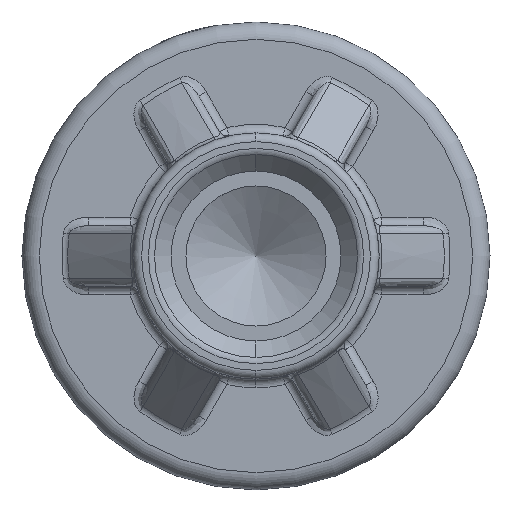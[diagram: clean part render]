
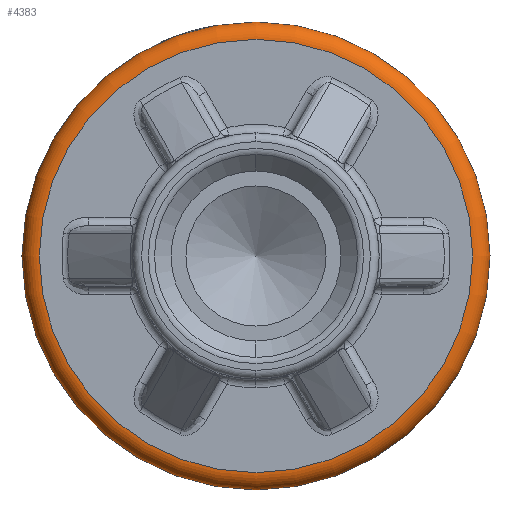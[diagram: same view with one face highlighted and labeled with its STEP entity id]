
A CAD part, left-side view. The second image highlights one B-rep face of the part: STEP entity #4383.
In plain terms, the highlighted toroidal (fillet/blend) face has major radius 6.25 mm and minor radius 0.5 mm.
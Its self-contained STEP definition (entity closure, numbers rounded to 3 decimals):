
#848=FACE_OUTER_BOUND('',#1147,.T.);
#1147=EDGE_LOOP('',(#2967,#2968,#2969,#2970,#2971,#2972,#2973));
#1491=CIRCLE('',#4754,6.75);
#1492=CIRCLE('',#4755,0.5);
#1493=CIRCLE('',#4756,6.25);
#1494=CIRCLE('',#4757,6.25);
#1495=CIRCLE('',#4758,6.75);
#1496=CIRCLE('',#4759,6.75);
#1823=VERTEX_POINT('',#6608);
#1824=VERTEX_POINT('',#6609);
#1825=VERTEX_POINT('',#6611);
#1826=VERTEX_POINT('',#6613);
#1827=VERTEX_POINT('',#6616);
#2251=EDGE_CURVE('',#1823,#1824,#1491,.T.);
#2252=EDGE_CURVE('',#1823,#1825,#1492,.T.);
#2253=EDGE_CURVE('',#1826,#1825,#1493,.T.);
#2254=EDGE_CURVE('',#1825,#1826,#1494,.T.);
#2255=EDGE_CURVE('',#1827,#1823,#1495,.T.);
#2256=EDGE_CURVE('',#1824,#1827,#1496,.T.);
#2967=ORIENTED_EDGE('',*,*,#2251,.F.);
#2968=ORIENTED_EDGE('',*,*,#2252,.T.);
#2969=ORIENTED_EDGE('',*,*,#2253,.F.);
#2970=ORIENTED_EDGE('',*,*,#2254,.F.);
#2971=ORIENTED_EDGE('',*,*,#2252,.F.);
#2972=ORIENTED_EDGE('',*,*,#2255,.F.);
#2973=ORIENTED_EDGE('',*,*,#2256,.F.);
#4329=TOROIDAL_SURFACE('',#4753,6.25,0.5);
#4383=ADVANCED_FACE('',(#848),#4329,.T.);
#4753=AXIS2_PLACEMENT_3D('',#6607,#5367,#5368);
#4754=AXIS2_PLACEMENT_3D('',#6610,#5369,#5370);
#4755=AXIS2_PLACEMENT_3D('',#6612,#5371,#5372);
#4756=AXIS2_PLACEMENT_3D('',#6614,#5373,#5374);
#4757=AXIS2_PLACEMENT_3D('',#6615,#5375,#5376);
#4758=AXIS2_PLACEMENT_3D('',#6617,#5377,#5378);
#4759=AXIS2_PLACEMENT_3D('',#6618,#5379,#5380);
#5367=DIRECTION('center_axis',(1.,0.,0.));
#5368=DIRECTION('ref_axis',(0.,0.,-1.));
#5369=DIRECTION('center_axis',(1.,0.,0.));
#5370=DIRECTION('ref_axis',(0.,0.,
1.));
#5371=DIRECTION('center_axis',(0.,-1.,0.));
#5372=DIRECTION('ref_axis',(0.,0.,
1.));
#5373=DIRECTION('center_axis',(-1.,0.,0.));
#5374=DIRECTION('ref_axis',(0.,0.,
-1.));
#5375=DIRECTION('center_axis',(-1.,0.,0.));
#5376=DIRECTION('ref_axis',(0.,0.,1.));
#5377=DIRECTION('center_axis',(1.,0.,0.));
#5378=DIRECTION('ref_axis',(0.,0.,-1.));
#5379=DIRECTION('center_axis',(1.,0.,0.));
#5380=DIRECTION('ref_axis',(0.,0.,
1.));
#6607=CARTESIAN_POINT('Origin',(-3.375,0.,
0.));
#6608=CARTESIAN_POINT('',(-3.375,0.,6.75));
#6609=CARTESIAN_POINT('',(-3.375,-6.75,0.));
#6610=CARTESIAN_POINT('Origin',(-3.375,0.,0.));
#6611=CARTESIAN_POINT('',(-3.875,0.,6.25));
#6612=CARTESIAN_POINT('Origin',(-3.375,0.,6.25));
#6613=CARTESIAN_POINT('',(-3.875,0.,-6.25));
#6614=CARTESIAN_POINT('Origin',(-3.875,0.,0.));
#6615=CARTESIAN_POINT('Origin',(-3.875,0.,0.));
#6616=CARTESIAN_POINT('',(-3.375,0.,-6.75));
#6617=CARTESIAN_POINT('Origin',(-3.375,0.,0.));
#6618=CARTESIAN_POINT('Origin',(-3.375,0.,0.));
